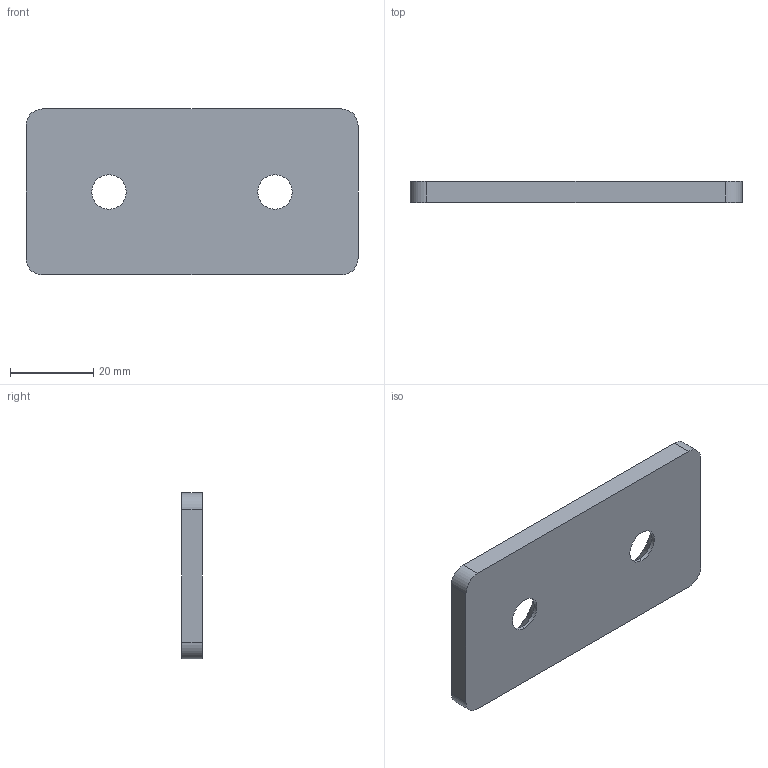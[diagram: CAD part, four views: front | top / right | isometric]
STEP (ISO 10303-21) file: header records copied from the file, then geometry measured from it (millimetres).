
FILE_DESCRIPTION (( 'STEP AP214' ), '1' );
FILE_NAME ('967-40-80-F-1-SW.step', '2023-06-26T09:08:34', ( '' ), ( '' ), 'SwSTEP 2.0', 'SolidWorks 2022', '' );
FILE_SCHEMA (( 'AUTOMOTIVE_DESIGN' ));
Length unit declared in the file: millimetre
Products named in the file (1): 967-40-80-F-1-SW
Bounding box: 80 x 5 x 40 mm (x, y, z)
Volume: 14807.6 mm3; surface area: 7501 mm2
Topology: 1 solids, 1 shells, 18 faces, 44 edges, 28 vertices
Faces by surface type: cylinder 8, plane 6, cone 4
Entity records: 578 total; most frequent: DIRECTION 102, CARTESIAN_POINT 91, ORIENTED_EDGE 88, EDGE_CURVE 44, AXIS2_PLACEMENT_3D 39, VERTEX_POINT 28, LINE 24, VECTOR 24
